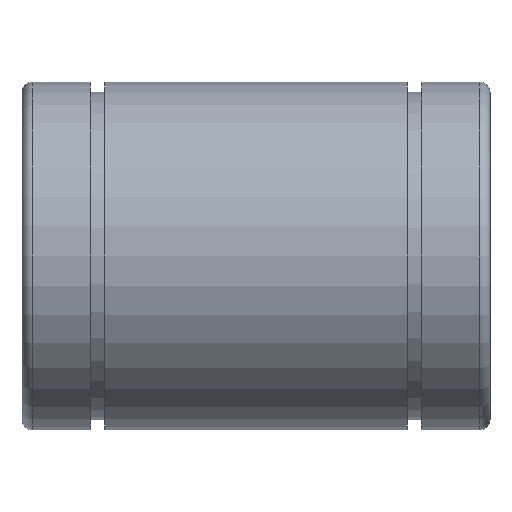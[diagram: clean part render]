
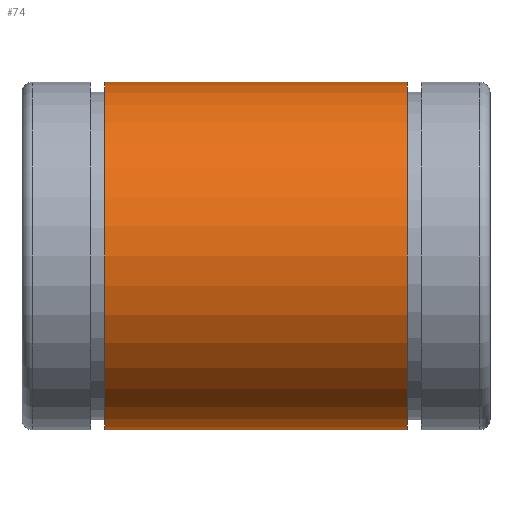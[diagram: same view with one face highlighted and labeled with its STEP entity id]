
A CAD part, front view. The second image highlights one B-rep face of the part: STEP entity #74.
In plain terms, the highlighted cylindrical face has radius 26 mm (diameter 52 mm), a full revolution.
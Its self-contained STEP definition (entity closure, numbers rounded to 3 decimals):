
#74 = ADVANCED_FACE( '', ( #159, #160 ), #161, .T. );
#159 = FACE_OUTER_BOUND( '', #238, .T. );
#160 = FACE_OUTER_BOUND( '', #239, .T. );
#161 = CYLINDRICAL_SURFACE( '', #240, 26. );
#238 = EDGE_LOOP( '', ( #343 ) );
#239 = EDGE_LOOP( '', ( #344 ) );
#240 = AXIS2_PLACEMENT_3D( '', #345, #346, #347 );
#343 = ORIENTED_EDGE( '', *, *, #372, .F. );
#344 = ORIENTED_EDGE( '', *, *, #376, .T. );
#345 = CARTESIAN_POINT( '', ( 35., 0., 0. ) );
#346 = DIRECTION( '', ( -1., 0., 0. ) );
#347 = DIRECTION( '', ( 0., 1., 0. ) );
#372 = EDGE_CURVE( '', #419, #419, #420, .T. );
#376 = EDGE_CURVE( '', #425, #425, #426, .T. );
#419 = VERTEX_POINT( '', #473 );
#420 = CIRCLE( '', #474, 26. );
#425 = VERTEX_POINT( '', #479 );
#426 = CIRCLE( '', #480, 26. );
#473 = CARTESIAN_POINT( '', ( 12.35, 26., 0. ) );
#474 = AXIS2_PLACEMENT_3D( '', #531, #532, #533 );
#479 = CARTESIAN_POINT( '', ( 57.65, 26., 0. ) );
#480 = AXIS2_PLACEMENT_3D( '', #537, #538, #539 );
#531 = CARTESIAN_POINT( '', ( 12.35, 0., 0. ) );
#532 = DIRECTION( '', ( -1., 0., 0. ) );
#533 = DIRECTION( '', ( 0., 1., 0. ) );
#537 = CARTESIAN_POINT( '', ( 57.65, 0., 0. ) );
#538 = DIRECTION( '', ( -1., 0., 0. ) );
#539 = DIRECTION( '', ( 0., 1., 0. ) );
